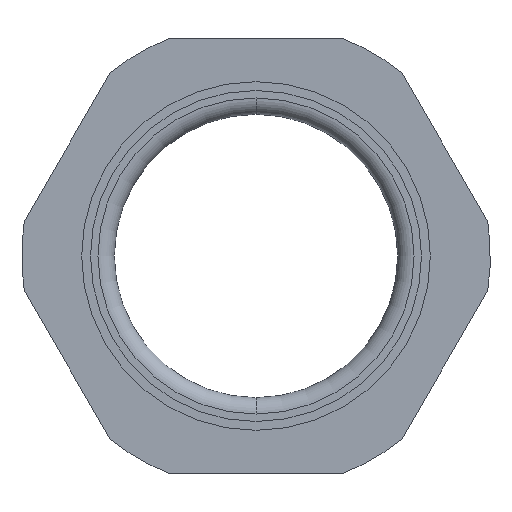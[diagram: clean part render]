
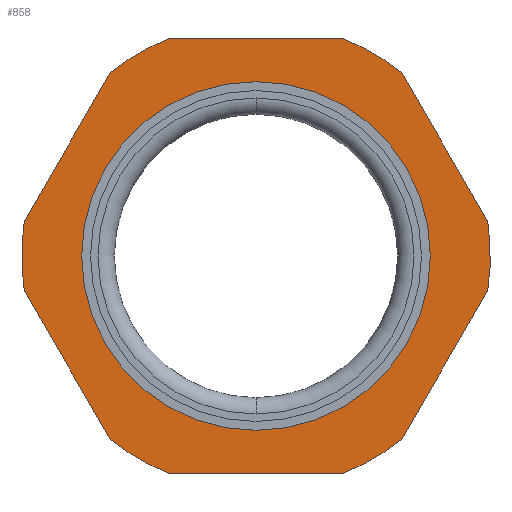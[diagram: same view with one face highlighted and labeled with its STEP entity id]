
A CAD part, front view. The second image highlights one B-rep face of the part: STEP entity #858.
In plain terms, the highlighted planar face has unit normal (0, -1, 0).
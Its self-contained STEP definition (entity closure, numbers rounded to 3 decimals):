
#22 = CARTESIAN_POINT ( 'NONE',  ( -16., 15., 20. ) ) ;
#31 = CARTESIAN_POINT ( 'NONE',  ( -21.265, 15., -3.167 ) ) ;
#37 = VECTOR ( 'NONE', #1450, 1000. ) ;
#46 = CIRCLE ( 'NONE', #1503, 21.5 ) ;
#52 = CARTESIAN_POINT ( 'NONE',  ( 0., 15., 0. ) ) ;
#67 = DIRECTION ( 'NONE',  ( 0., 1., 0. ) ) ;
#69 = DIRECTION ( 'NONE',  ( 0., 0., 1. ) ) ;
#73 = DIRECTION ( 'NONE',  ( 0., 0., 1. ) ) ;
#79 = DIRECTION ( 'NONE',  ( 0., 0., 1. ) ) ;
#82 = VERTEX_POINT ( 'NONE', #138 ) ;
#84 = VERTEX_POINT ( 'NONE', #264 ) ;
#90 = CARTESIAN_POINT ( 'NONE',  ( 0., 15., 0. ) ) ;
#120 = ORIENTED_EDGE ( 'NONE', *, *, #1536, .T. ) ;
#136 = AXIS2_PLACEMENT_3D ( 'NONE', #1215, #1306, #69 ) ;
#138 = CARTESIAN_POINT ( 'NONE',  ( 7.89, 15., -20. ) ) ;
#142 = DIRECTION ( 'NONE',  ( 0., 0., 1. ) ) ;
#147 = DIRECTION ( 'NONE',  ( 0., 1., 0. ) ) ;
#152 = CIRCLE ( 'NONE', #1472, 21.5 ) ;
#169 = ORIENTED_EDGE ( 'NONE', *, *, #446, .T. ) ;
#201 = CIRCLE ( 'NONE', #471, 21.5 ) ;
#208 = CARTESIAN_POINT ( 'NONE',  ( -13.376, 15., -16.833 ) ) ;
#246 = AXIS2_PLACEMENT_3D ( 'NONE', #90, #913, #940 ) ;
#263 = CARTESIAN_POINT ( 'NONE',  ( 0., 15., 0. ) ) ;
#264 = CARTESIAN_POINT ( 'NONE',  ( -7.89, 15., 20. ) ) ;
#271 = DIRECTION ( 'NONE',  ( 0., 1., 0. ) ) ;
#273 = EDGE_CURVE ( 'NONE', #856, #1008, #46, .T. ) ;
#275 = DIRECTION ( 'NONE',  ( 0.5, 0., 0.866 ) ) ;
#278 = CARTESIAN_POINT ( 'NONE',  ( 0., 15., 16. ) ) ;
#280 = ORIENTED_EDGE ( 'NONE', *, *, #1403, .F. ) ;
#299 = CARTESIAN_POINT ( 'NONE',  ( -21.321, 15., 3.072 ) ) ;
#337 = CARTESIAN_POINT ( 'NONE',  ( 21.265, 15., -3.167 ) ) ;
#372 = EDGE_CURVE ( 'NONE', #505, #1552, #201, .T. ) ;
#381 = VERTEX_POINT ( 'NONE', #278 ) ;
#389 = FACE_OUTER_BOUND ( 'NONE', #1527, .T. ) ;
#392 = VERTEX_POINT ( 'NONE', #816 ) ;
#396 = ORIENTED_EDGE ( 'NONE', *, *, #1606, .T. ) ;
#416 = DIRECTION ( 'NONE',  ( 0., 1., 0. ) ) ;
#434 = VERTEX_POINT ( 'NONE', #810 ) ;
#446 = EDGE_CURVE ( 'NONE', #728, #1552, #492, .T. ) ;
#450 = VERTEX_POINT ( 'NONE', #1327 ) ;
#453 = CARTESIAN_POINT ( 'NONE',  ( 0., 15., 0. ) ) ;
#467 = VECTOR ( 'NONE', #275, 1000. ) ;
#471 = AXIS2_PLACEMENT_3D ( 'NONE', #713, #416, #570 ) ;
#481 = ORIENTED_EDGE ( 'NONE', *, *, #777, .T. ) ;
#492 = LINE ( 'NONE', #299, #776 ) ;
#505 = VERTEX_POINT ( 'NONE', #31 ) ;
#506 = LINE ( 'NONE', #1009, #467 ) ;
#529 = EDGE_CURVE ( 'NONE', #856, #1529, #1482, .T. ) ;
#532 = EDGE_CURVE ( 'NONE', #728, #84, #152, .T. ) ;
#536 = CIRCLE ( 'NONE', #1113, 16. ) ;
#549 = AXIS2_PLACEMENT_3D ( 'NONE', #52, #67, #73 ) ;
#570 = DIRECTION ( 'NONE',  ( 0., 0., 1. ) ) ;
#586 = DIRECTION ( 'NONE',  ( -0.5, 0., -0.866 ) ) ;
#615 = ORIENTED_EDGE ( 'NONE', *, *, #532, .F. ) ;
#631 = EDGE_CURVE ( 'NONE', #434, #1301, #691, .T. ) ;
#691 = CIRCLE ( 'NONE', #865, 21.5 ) ;
#692 = EDGE_CURVE ( 'NONE', #1366, #84, #918, .T. ) ;
#711 = CIRCLE ( 'NONE', #246, 21.5 ) ;
#713 = CARTESIAN_POINT ( 'NONE',  ( 0., 15., 0. ) ) ;
#728 = VERTEX_POINT ( 'NONE', #1276 ) ;
#729 = CARTESIAN_POINT ( 'NONE',  ( -21.321, 15., -3.072 ) ) ;
#776 = VECTOR ( 'NONE', #586, 1000. ) ;
#777 = EDGE_CURVE ( 'NONE', #392, #1008, #506, .T. ) ;
#810 = CARTESIAN_POINT ( 'NONE',  ( -7.89, 15., -20. ) ) ;
#816 = CARTESIAN_POINT ( 'NONE',  ( 13.376, 15., -16.833 ) ) ;
#828 = AXIS2_PLACEMENT_3D ( 'NONE', #1317, #1448, #1072 ) ;
#856 = VERTEX_POINT ( 'NONE', #1259 ) ;
#858 = ADVANCED_FACE ( 'NONE', ( #1048, #389 ), #1586, .T. ) ;
#861 = ORIENTED_EDGE ( 'NONE', *, *, #1268, .T. ) ;
#865 = AXIS2_PLACEMENT_3D ( 'NONE', #263, #271, #142 ) ;
#875 = ORIENTED_EDGE ( 'NONE', *, *, #631, .F. ) ;
#886 = DIRECTION ( 'NONE',  ( 0., 0., 1. ) ) ;
#891 = ORIENTED_EDGE ( 'NONE', *, *, #692, .T. ) ;
#913 = DIRECTION ( 'NONE',  ( 0., 1., 0. ) ) ;
#918 = LINE ( 'NONE', #22, #1534 ) ;
#925 = DIRECTION ( 'NONE',  ( 1., 0., 0. ) ) ;
#940 = DIRECTION ( 'NONE',  ( 0., 0., 1. ) ) ;
#943 = CARTESIAN_POINT ( 'NONE',  ( 7.89, 15., 20. ) ) ;
#946 = EDGE_CURVE ( 'NONE', #381, #450, #1183, .T. ) ;
#980 = EDGE_CURVE ( 'NONE', #1366, #1529, #1145, .T. ) ;
#990 = ORIENTED_EDGE ( 'NONE', *, *, #273, .F. ) ;
#1008 = VERTEX_POINT ( 'NONE', #337 ) ;
#1009 = CARTESIAN_POINT ( 'NONE',  ( 13.321, 15., -16.928 ) ) ;
#1033 = ORIENTED_EDGE ( 'NONE', *, *, #529, .T. ) ;
#1048 = FACE_BOUND ( 'NONE', #1466, .T. ) ;
#1072 = DIRECTION ( 'NONE',  ( 0., 0., -1. ) ) ;
#1079 = DIRECTION ( 'NONE',  ( 0., 1., 0. ) ) ;
#1100 = CARTESIAN_POINT ( 'NONE',  ( 13.376, 15., 16.833 ) ) ;
#1113 = AXIS2_PLACEMENT_3D ( 'NONE', #453, #1079, #79 ) ;
#1116 = DIRECTION ( 'NONE',  ( 0., 0., 1. ) ) ;
#1120 = ORIENTED_EDGE ( 'NONE', *, *, #946, .T. ) ;
#1145 = CIRCLE ( 'NONE', #549, 21.5 ) ;
#1147 = VECTOR ( 'NONE', #1274, 1000. ) ;
#1168 = ORIENTED_EDGE ( 'NONE', *, *, #980, .F. ) ;
#1173 = CARTESIAN_POINT ( 'NONE',  ( 0., 15., 0. ) ) ;
#1183 = CIRCLE ( 'NONE', #136, 16. ) ;
#1214 = CARTESIAN_POINT ( 'NONE',  ( -21.265, 15., 3.167 ) ) ;
#1215 = CARTESIAN_POINT ( 'NONE',  ( 0., 15., 0. ) ) ;
#1225 = VECTOR ( 'NONE', #925, 1000. ) ;
#1250 = CARTESIAN_POINT ( 'NONE',  ( 13.321, 15., 16.928 ) ) ;
#1259 = CARTESIAN_POINT ( 'NONE',  ( 21.265, 15., 3.167 ) ) ;
#1268 = EDGE_CURVE ( 'NONE', #450, #381, #536, .T. ) ;
#1274 = DIRECTION ( 'NONE',  ( -0.5, 0., 0.866 ) ) ;
#1276 = CARTESIAN_POINT ( 'NONE',  ( -13.376, 15., 16.833 ) ) ;
#1301 = VERTEX_POINT ( 'NONE', #208 ) ;
#1306 = DIRECTION ( 'NONE',  ( 0., 1., 0. ) ) ;
#1317 = CARTESIAN_POINT ( 'NONE',  ( -16., 15., 0. ) ) ;
#1327 = CARTESIAN_POINT ( 'NONE',  ( 0., 15., -16. ) ) ;
#1342 = DIRECTION ( 'NONE',  ( 0., 1., 0. ) ) ;
#1358 = CARTESIAN_POINT ( 'NONE',  ( 0., 15., 0. ) ) ;
#1366 = VERTEX_POINT ( 'NONE', #943 ) ;
#1373 = LINE ( 'NONE', #729, #37 ) ;
#1403 = EDGE_CURVE ( 'NONE', #392, #82, #711, .T. ) ;
#1407 = ORIENTED_EDGE ( 'NONE', *, *, #372, .F. ) ;
#1448 = DIRECTION ( 'NONE',  ( 0., -1., 0. ) ) ;
#1450 = DIRECTION ( 'NONE',  ( 0.5, 0., -0.866 ) ) ;
#1466 = EDGE_LOOP ( 'NONE', ( #1120, #861 ) ) ;
#1472 = AXIS2_PLACEMENT_3D ( 'NONE', #1173, #147, #886 ) ;
#1482 = LINE ( 'NONE', #1250, #1147 ) ;
#1503 = AXIS2_PLACEMENT_3D ( 'NONE', #1358, #1342, #1116 ) ;
#1513 = DIRECTION ( 'NONE',  ( -1., 0., 0. ) ) ;
#1527 = EDGE_LOOP ( 'NONE', ( #875, #396, #280, #481, #990, #1033, #1168, #891, #615, #169, #1407, #120 ) ) ;
#1529 = VERTEX_POINT ( 'NONE', #1100 ) ;
#1534 = VECTOR ( 'NONE', #1513, 1000. ) ;
#1536 = EDGE_CURVE ( 'NONE', #505, #1301, #1373, .T. ) ;
#1537 = CARTESIAN_POINT ( 'NONE',  ( -16., 15., -20. ) ) ;
#1547 = LINE ( 'NONE', #1537, #1225 ) ;
#1552 = VERTEX_POINT ( 'NONE', #1214 ) ;
#1586 = PLANE ( 'NONE',  #828 ) ;
#1606 = EDGE_CURVE ( 'NONE', #434, #82, #1547, .T. ) ;
